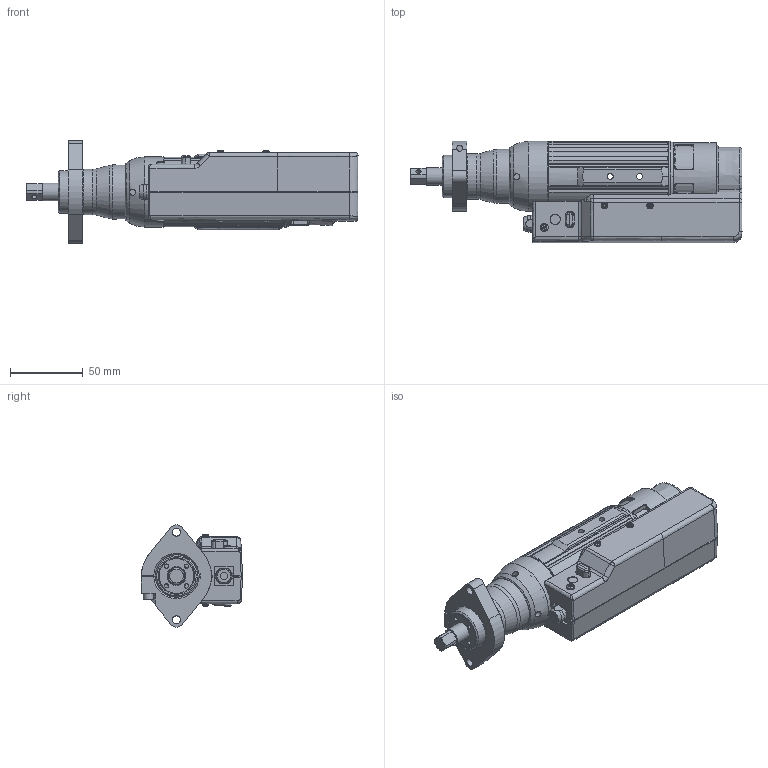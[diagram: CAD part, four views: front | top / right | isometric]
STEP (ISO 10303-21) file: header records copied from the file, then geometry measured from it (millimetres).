
FILE_DESCRIPTION(('STEP AP203'),'2;1');
FILE_NAME('EH2-R0005-SC.stp','2009-03-17T15:38:29',(''),(''),'2008.1.107','THINKDESIGN','');
FILE_SCHEMA(('CONFIG_CONTROL_DESIGN'));
Bounding box: 227.4 x 69.36 x 69.97 mm (x, y, z)
Volume: 109256.7 mm3; surface area: 140538.2 mm2
Topology: 25 solids, 25 shells, 1711 faces, 7500 edges, 6509 vertices
Faces by surface type: bspline 1186, plane 350, cylinder 175
Full cylindrical faces by diameter (mm): 1 x7, 1.5 x7, 1.6 x22, 2.2 x22, 2.5 x6, 2.6 x4, 3 x28, 3.5 x5, 4.1 x4, 4.2 x1, 5 x1, 5.5 x3, 6 x5, 7 x1, 8.6 x3, 8.9 x2, 9 x3, 12 x1, 13 x1, 22 x1, 24 x1, 25 x1, 29 x1, 31 x1, 33 x1, 37 x1, 37.4 x1, 45 x1, 45.5 x1, 45.7 x1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
Entity records: 141778 total; most frequent: CARTESIAN_POINT 104676, ORIENTED_EDGE 6684, COMPOSITE_CURVE_SEGMENT 4017, DIRECTION 3946, EDGE_CURVE 3342, B_SPLINE_CURVE_WITH_KNOTS 3085, VERTEX_POINT 2476, QUASI_UNIFORM_CURVE 2032
